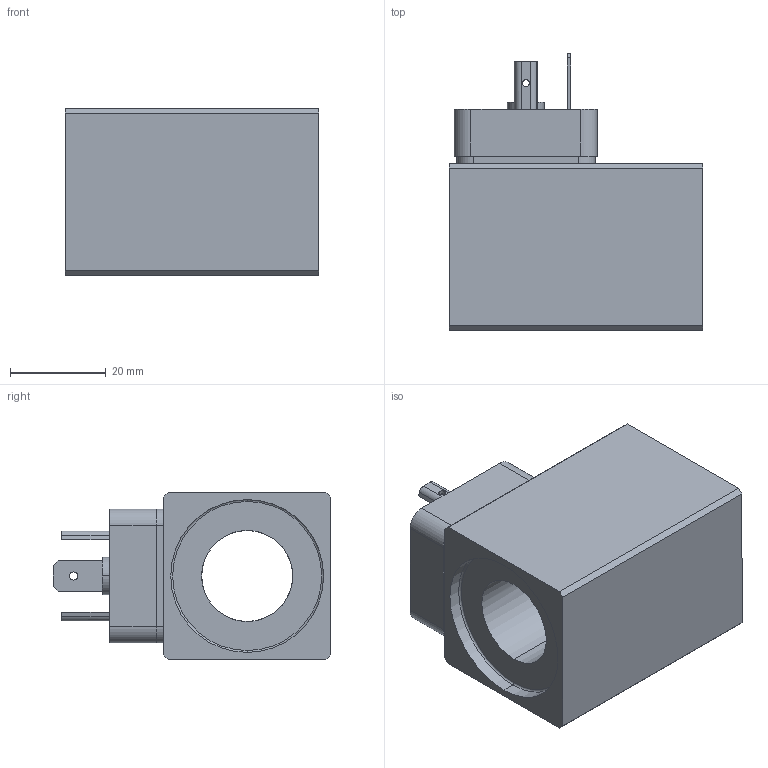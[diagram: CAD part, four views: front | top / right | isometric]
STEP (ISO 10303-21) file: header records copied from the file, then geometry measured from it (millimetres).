
FILE_DESCRIPTION (( 'STEP AP214' ), '1' );
FILE_NAME ('MDS35_19x50.STEP', '2014-03-19T10:19:20', ( '' ), ( '' ), 'SwSTEP 2.0', 'SolidWorks 2012', '' );
FILE_SCHEMA (( 'AUTOMOTIVE_DESIGN' ));
Length unit declared in the file: millimetre
Products named in the file (1): MDS35_19x50
Bounding box: 53 x 58.1 x 35 mm (x, y, z)
Volume: 52152.6 mm3; surface area: 20485.3 mm2
Topology: 13 solids, 14 shells, 352 faces, 916 edges, 601 vertices
Faces by surface type: plane 224, cylinder 106, cone 18, bspline 2, torus 2
Entity records: 14896 total; most frequent: CARTESIAN_POINT 1987, DIRECTION 1845, ORIENTED_EDGE 1824, EDGE_CURVE 912, VECTOR 643, LINE 643, VERTEX_POINT 601, AXIS2_PLACEMENT_3D 601
